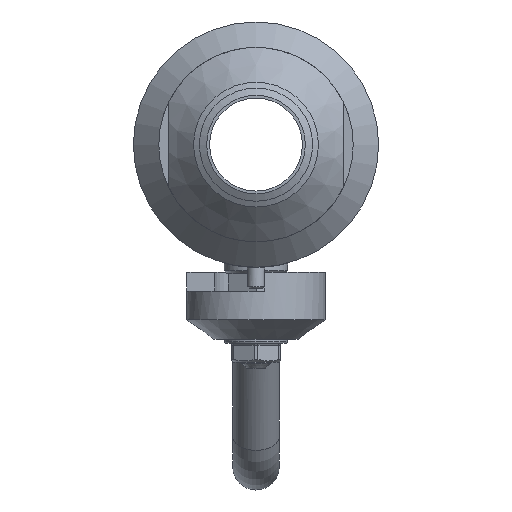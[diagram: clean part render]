
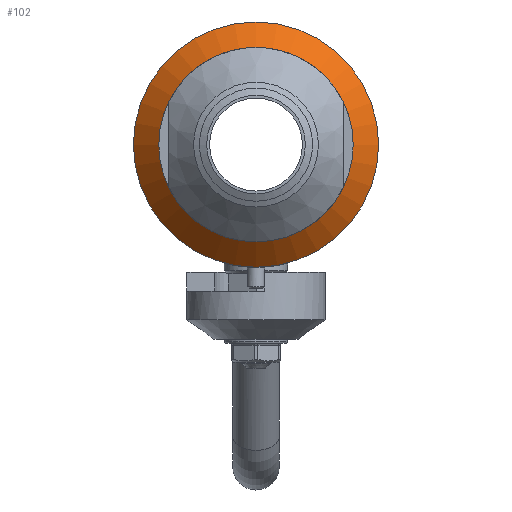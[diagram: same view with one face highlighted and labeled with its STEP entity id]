
A CAD part, left-side view. The second image highlights one B-rep face of the part: STEP entity #102.
In plain terms, the highlighted conical face has half-angle 45 degrees and reference radius 37.875 mm.
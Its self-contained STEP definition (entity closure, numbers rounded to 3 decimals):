
#102=ADVANCED_FACE('',(#869),#871,.T.);
#869=FACE_OUTER_BOUND('',#870,.T.);
#870=EDGE_LOOP('',(#1882,#1883,#1884,#1885,#1886));
#871=CONICAL_SURFACE('',#872,37.875,0.785);
#872=AXIS2_PLACEMENT_3D('',#873,#874,#875);
#873=CARTESIAN_POINT('',(-30.625,0.,0.));
#874=DIRECTION('',(1.,0.,0.));
#875=DIRECTION('',(0.,1.,0.));
#1882=ORIENTED_EDGE('',*,*,#2990,.F.);
#1883=ORIENTED_EDGE('',*,*,#2991,.T.);
#1884=ORIENTED_EDGE('',*,*,#2992,.T.);
#1885=ORIENTED_EDGE('',*,*,#2991,.F.);
#1886=ORIENTED_EDGE('',*,*,#2993,.F.);
#2990=EDGE_CURVE('',#3255,#3256,#3257,.T.);
#2991=EDGE_CURVE('',#3255,#3258,#3259,.T.);
#2992=EDGE_CURVE('',#3258,#3258,#3260,.T.);
#2993=EDGE_CURVE('',#3256,#3255,#3261,.T.);
#3255=VERTEX_POINT('',#3682);
#3256=VERTEX_POINT('',#3683);
#3257=CIRCLE('',#3684,33.5);
#3258=VERTEX_POINT('',#3688);
#3259=LINE('',#3689,#3690);
#3260=CIRCLE('',#3692,42.25);
#3261=CIRCLE('',#3696,33.5);
#3682=CARTESIAN_POINT('',(-35.,-33.5,0.));
#3683=CARTESIAN_POINT('',(-35.,0.,-33.5));
#3684=AXIS2_PLACEMENT_3D('',#3685,#3686,#3687);
#3685=CARTESIAN_POINT('',(-35.,0.,0.));
#3686=DIRECTION('',(-1.,-0.,0.));
#3687=DIRECTION('',(0.,-1.,0.));
#3688=CARTESIAN_POINT('',(-26.25,-42.25,0.));
#3689=CARTESIAN_POINT('',(-35.,-33.5,0.));
#3690=VECTOR('',#3691,1.);
#3691=DIRECTION('',(0.707,-0.707,0.));
#3692=AXIS2_PLACEMENT_3D('',#3693,#3694,#3695);
#3693=CARTESIAN_POINT('',(-26.25,0.,0.));
#3694=DIRECTION('',(-1.,-0.,0.));
#3695=DIRECTION('',(0.,-1.,0.));
#3696=AXIS2_PLACEMENT_3D('',#3697,#3698,#3699);
#3697=CARTESIAN_POINT('',(-35.,0.,0.));
#3698=DIRECTION('',(-1.,-0.,0.));
#3699=DIRECTION('',(0.,0.,-1.));
